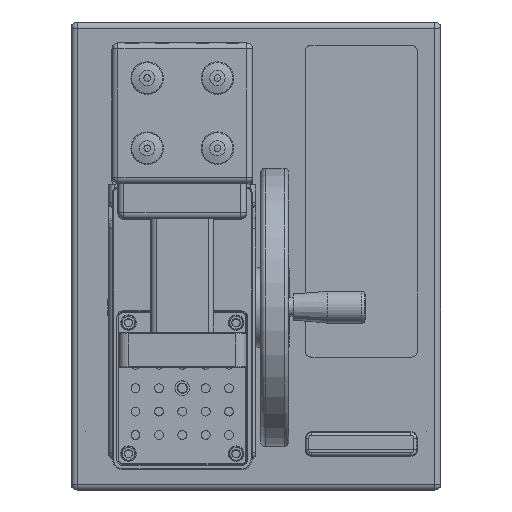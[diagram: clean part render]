
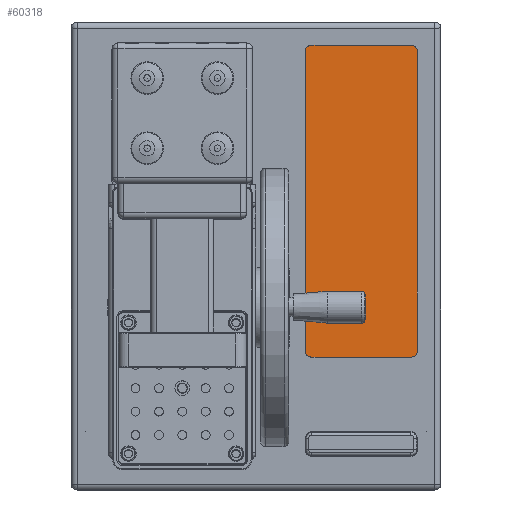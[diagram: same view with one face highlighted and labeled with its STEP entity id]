
A CAD part, top view. The second image highlights one B-rep face of the part: STEP entity #60318.
In plain terms, the highlighted planar face has unit normal (0, 0, 1).
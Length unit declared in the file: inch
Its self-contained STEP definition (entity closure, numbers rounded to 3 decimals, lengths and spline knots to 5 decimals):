
#60153=CARTESIAN_POINT('',(52.8506,14.94345,-5.829));
#60154=VERTEX_POINT('',#60153);
#60155=CARTESIAN_POINT('',(52.9756,15.06845,-5.829));
#60156=VERTEX_POINT('',#60155);
#60157=CARTESIAN_POINT('',(52.8506,15.06845,-5.829));
#60158=DIRECTION('',(0.0,0.0,1.));
#60159=DIRECTION('',(0.707,-0.707,0.0));
#60160=AXIS2_PLACEMENT_3D('',#60157,#60158,#60159);
#60161=CIRCLE('',#60160,0.125);
#60162=EDGE_CURVE('',#60154,#60156,#60161,.T.);
#60186=CARTESIAN_POINT('',(50.7006,14.94345,-5.829));
#60187=VERTEX_POINT('',#60186);
#60188=CARTESIAN_POINT('',(52.8506,14.94345,-5.829));
#60189=DIRECTION('',(-1.0,0.0,0.0));
#60190=VECTOR('',#60189,2.15);
#60191=LINE('',#60188,#60190);
#60192=EDGE_CURVE('',#60154,#60187,#60191,.T.);
#60209=CARTESIAN_POINT('',(50.5756,15.06845,-5.829));
#60210=VERTEX_POINT('',#60209);
#60211=CARTESIAN_POINT('',(50.7006,15.06845,-5.829));
#60212=DIRECTION('',(0.0,0.0,1.));
#60213=DIRECTION('',(-0.707,-0.707,0.0));
#60214=AXIS2_PLACEMENT_3D('',#60211,#60212,#60213);
#60215=CIRCLE('',#60214,0.125);
#60216=EDGE_CURVE('',#60210,#60187,#60215,.T.);
#60235=CARTESIAN_POINT('',(50.5756,21.47845,-5.829));
#60236=VERTEX_POINT('',#60235);
#60237=CARTESIAN_POINT('',(50.5756,15.06845,-5.829));
#60238=DIRECTION('',(0.0,1.0,0.0));
#60239=VECTOR('',#60238,6.41);
#60240=LINE('',#60237,#60239);
#60241=EDGE_CURVE('',#60210,#60236,#60240,.T.);
#60258=CARTESIAN_POINT('',(52.9756,21.47845,-5.829));
#60259=VERTEX_POINT('',#60258);
#60260=CARTESIAN_POINT('',(52.8506,21.60345,-5.829));
#60261=VERTEX_POINT('',#60260);
#60262=CARTESIAN_POINT('',(52.8506,21.47845,-5.829));
#60263=DIRECTION('',(0.0,0.0,1.));
#60264=DIRECTION('',(0.707,0.707,0.0));
#60265=AXIS2_PLACEMENT_3D('',#60262,#60263,#60264);
#60266=CIRCLE('',#60265,0.125);
#60267=EDGE_CURVE('',#60259,#60261,#60266,.T.);
#60285=CARTESIAN_POINT('',(51.7756,18.27345,-5.829));
#60286=DIRECTION('',(0.0,0.0,1.0));
#60287=DIRECTION('',(1.0,0.0,0.0));
#60288=AXIS2_PLACEMENT_3D('',#60285,#60286,#60287);
#60289=PLANE('',#60288);
#60290=ORIENTED_EDGE('',*,*,#60162,.T.);
#60291=CARTESIAN_POINT('',(52.9756,21.47845,-5.829));
#60292=DIRECTION('',(0.0,-1.0,0.0));
#60293=VECTOR('',#60292,6.41);
#60294=LINE('',#60291,#60293);
#60295=EDGE_CURVE('',#60259,#60156,#60294,.T.);
#60296=ORIENTED_EDGE('',*,*,#60295,.F.);
#60297=ORIENTED_EDGE('',*,*,#60267,.T.);
#60298=CARTESIAN_POINT('',(50.7006,21.60345,-5.829));
#60299=VERTEX_POINT('',#60298);
#60300=CARTESIAN_POINT('',(50.7006,21.60345,-5.829));
#60301=DIRECTION('',(1.0,0.0,0.0));
#60302=VECTOR('',#60301,2.15);
#60303=LINE('',#60300,#60302);
#60304=EDGE_CURVE('',#60299,#60261,#60303,.T.);
#60305=ORIENTED_EDGE('',*,*,#60304,.F.);
#60306=CARTESIAN_POINT('',(50.7006,21.47845,-5.829));
#60307=DIRECTION('',(0.0,0.0,1.));
#60308=DIRECTION('',(-0.707,0.707,0.0));
#60309=AXIS2_PLACEMENT_3D('',#60306,#60307,#60308);
#60310=CIRCLE('',#60309,0.125);
#60311=EDGE_CURVE('',#60299,#60236,#60310,.T.);
#60312=ORIENTED_EDGE('',*,*,#60311,.T.);
#60313=ORIENTED_EDGE('',*,*,#60241,.F.);
#60314=ORIENTED_EDGE('',*,*,#60216,.T.);
#60315=ORIENTED_EDGE('',*,*,#60192,.F.);
#60316=EDGE_LOOP('',(#60290,#60296,#60297,#60305,#60312,#60313,#60314,#60315));
#60317=FACE_OUTER_BOUND('',#60316,.T.);
#60318=ADVANCED_FACE('',(#60317),#60289,.T.);
